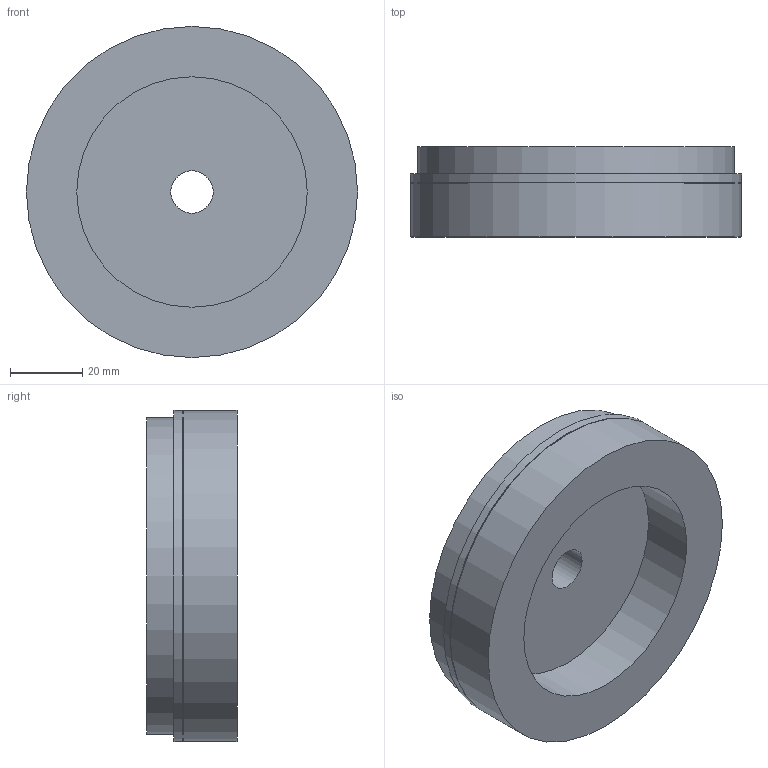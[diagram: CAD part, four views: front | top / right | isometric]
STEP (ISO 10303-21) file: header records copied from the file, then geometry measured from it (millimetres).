
FILE_DESCRIPTION (( 'STEP AP214' ), '1' );
FILE_NAME ('10FF.092.004.15N.STEP', '2026-03-25T17:29:18', ( '' ), ( '' ), 'SwSTEP 2.0', 'SolidWorks 2025', '' );
FILE_SCHEMA (( 'AUTOMOTIVE_DESIGN' ));
Length unit declared in the file: millimetre
Products named in the file (1): 10FF.092.004.15N
Bounding box: 92 x 25 x 92 mm (x, y, z)
Volume: 111950.8 mm3; surface area: 24253.8 mm2
Topology: 1 solids, 1 shells, 21 faces, 41 edges, 26 vertices
Faces by surface type: cylinder 10, plane 6, cone 5
Full cylindrical faces by diameter (mm): 4.2 x4, 11.8 x1, 64 x1, 88 x1, 91.748 x1, 92 x2
Entity records: 451 total; most frequent: DIRECTION 86, CARTESIAN_POINT 64, AXIS2_PLACEMENT_3D 43, EDGE_LOOP 42, ORIENTED_EDGE 42, FACE_OUTER_BOUND 31, EDGE_CURVE 21, VERTEX_POINT 21
